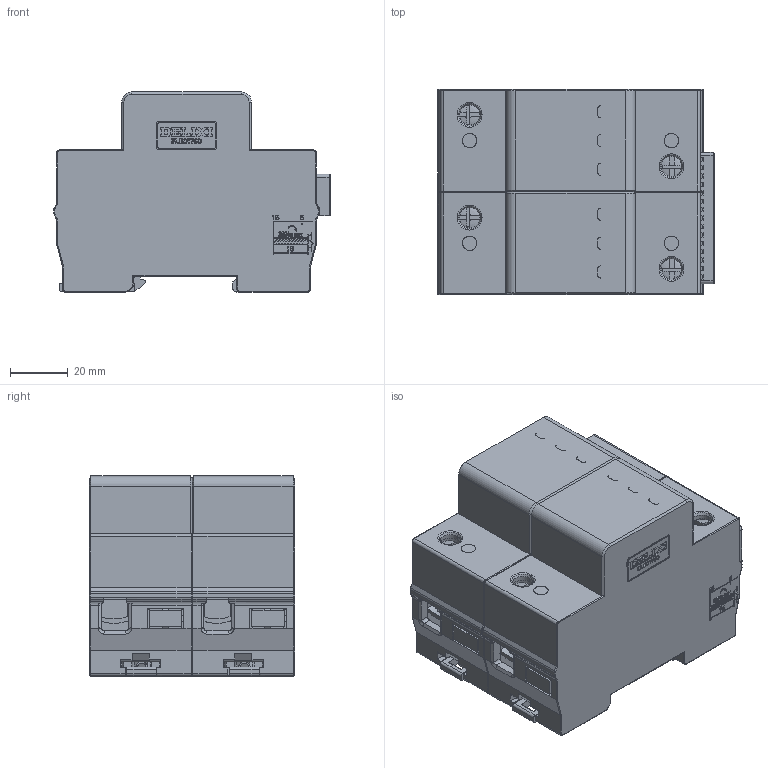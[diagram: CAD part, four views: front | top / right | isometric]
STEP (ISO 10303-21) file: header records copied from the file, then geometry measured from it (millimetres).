
FILE_DESCRIPTION((''),'2;1');
FILE_NAME('2207002700_SW0006','2023-03-16T',('linxiao.guan'),(''),'PRO/ENGINEER BY PARAMETRIC TECHNOLOGY CORPORATION, 2015440','PRO/ENGINEER BY PARAMETRIC TECHNOLOGY CORPORATION, 2015440','');
FILE_SCHEMA(('CONFIG_CONTROL_DESIGN'));
Products named in the file (1): 2207002700_SW0006
Bounding box: 95.8 x 71.2 x 69.4 mm (x, y, z)
Volume: 114997.8 mm3; surface area: 112554.9 mm2
Topology: 1 solids, 1 shells, 3577 faces, 10113 edges, 6595 vertices
Faces by surface type: plane 2828, cylinder 529, torus 78, cone 74, bspline 52, sphere 16
Entity records: 136493 total; most frequent: CARTESIAN_POINT 43122, ORIENTED_EDGE 20226, DIRECTION 18135, EDGE_CURVE 10113, VECTOR 8427, LINE 8427, VERTEX_POINT 6595, AXIS2_PLACEMENT_3D 4854
